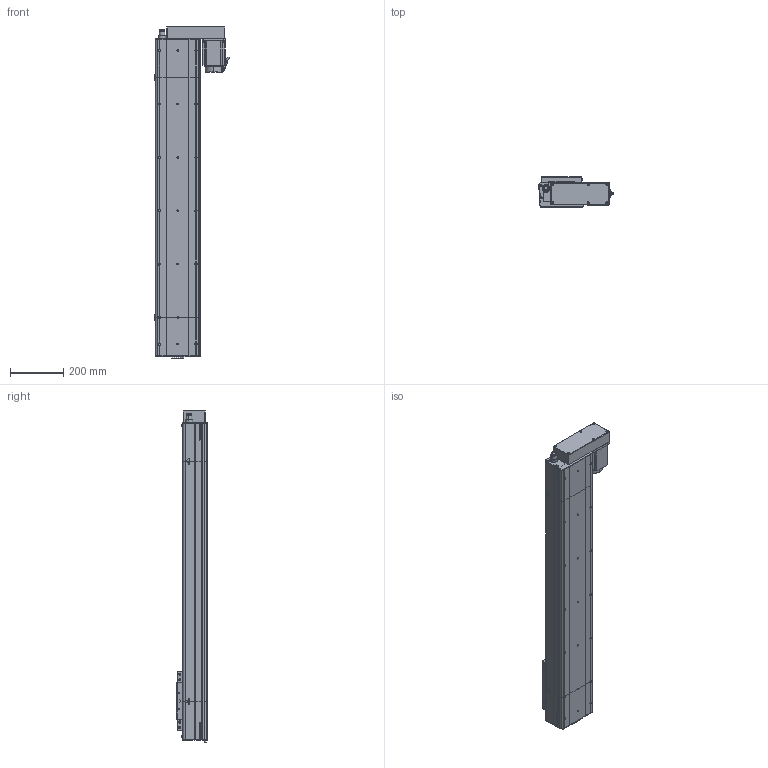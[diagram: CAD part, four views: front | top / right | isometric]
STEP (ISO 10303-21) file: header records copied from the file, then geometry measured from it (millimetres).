
FILE_DESCRIPTION (( 'STEP AP214' ), '1' );
FILE_NAME ('D17 CSH BL S900.STEP', '2010-06-29T14:18:37', ( 'Christophe Gaillard' ), ( 'SGA' ), 'SwSTEP 2.0', 'SolidWorks 2010', '' );
FILE_SCHEMA (( 'AUTOMOTIVE_DESIGN' ));
Length unit declared in the file: millimetre
Products named in the file (29): D17 CSH BL S900; ecrou_Default; Corp Head  D17 BL_Default; vis M5 L60_Default; corps 90BLDC100A-640; Plaque de bout D17 head BL_Default; Conecteur_Default; couvercle D17 head BL_Default; plaque de serrage D17 head BL_Default; Corp Tail D17+100_Default; couvercle D17-900_Default; vis M5 L15_Default; Corp L900_Default; couvercle D17_Default; Corp D17 S900_Default; Tail D17+100_Default; Plaque de bout D17_Default; plaque de serrage D17_Default; chariot D17_Default; support chariot D17_Default; Chariot D17_Default; glissiere_Default; avant 90BLDC100A-640; Moteur motionking 90BLDC100A-640; Head D17 BL_Default; codeur 90BLDC100-640; Support Moteur BL_Default; vis M5 L47_Default; Conecteur2_Default
Assembly tree (52 placements, depth 4):
  D17 CSH BL S900
    Corp D17 S900_Default
      Corp L900_Default
      couvercle D17-900_Default
    Head D17 BL_Default
      Moteur motionking 90BLDC100A-640
        Conecteur2_Default
        corps 90BLDC100A-640
        codeur 90BLDC100-640
        Conecteur_Default
        avant 90BLDC100A-640
      couvercle D17 head BL_Default
      Corp Head  D17 BL_Default
      vis M5 L60_Default  x4
      vis M5 L47_Default  x2
      ecrou_Default  x4
      vis M5 L15_Default  x4
      Support Moteur BL_Default
      plaque de serrage D17 head BL_Default
      Plaque de bout D17 head BL_Default
    Chariot D17_Default
      vis M5 L15_Default  x8
      glissiere_Default
      chariot D17_Default
      support chariot D17_Default
    Tail D17+100_Default
      vis M5 L15_Default  x6
      Plaque de bout D17_Default
      Corp Tail D17+100_Default
      plaque de serrage D17_Default
      couvercle D17_Default
Bounding box: 279.16 x 114 x 1244.2 mm (x, y, z)
Volume: 9141406 mm3; surface area: 1621683.3 mm2
Topology: 89 solids, 89 shells, 3186 faces, 8026 edges, 5234 vertices
Faces by surface type: plane 1887, bspline 758, cylinder 422, torus 67, cone 48, sphere 4
Entity records: 149152 total; most frequent: CARTESIAN_POINT 81156, ORIENTED_EDGE 13592, DIRECTION 9842, EDGE_CURVE 6796, VECTOR 4578, LINE 4578, VERTEX_POINT 4502, EDGE_LOOP 2884
